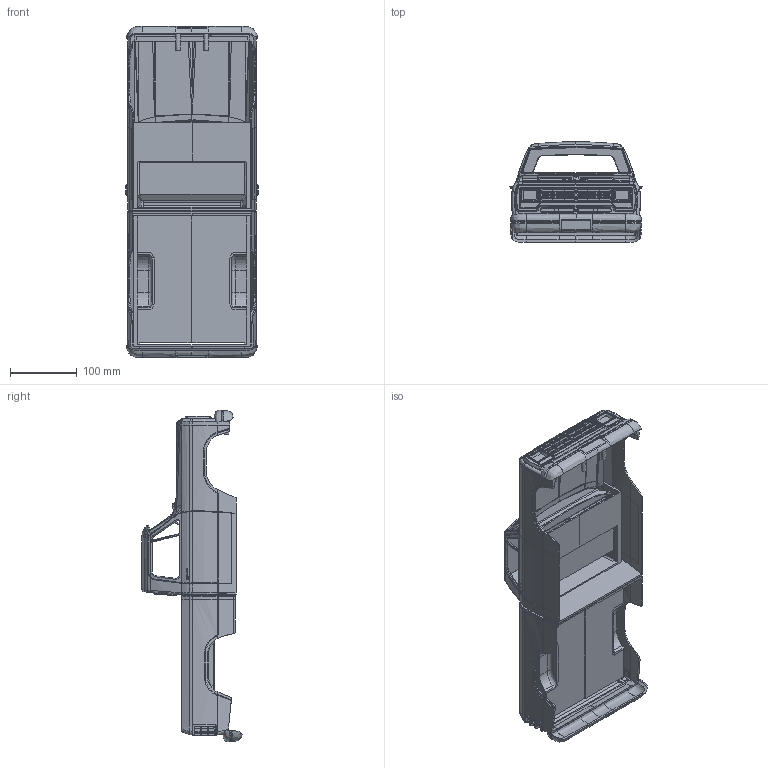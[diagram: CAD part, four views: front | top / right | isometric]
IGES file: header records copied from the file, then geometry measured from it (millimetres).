
Global section: file name: Dodge Ram CUT UP; native system: unknown; preprocessor: unknown; author: alex@bogusky.me; organization: unknown; date: 20190331.211050; units: millimetre
Bounding box: 197.11 x 149.44 x 494.75 mm (x, y, z)
Volume: 811212.3 mm3; surface area: 679036.8 mm2
Topology: 23 solids, 23 shells, 5043 faces, 12763 edges, 7894 vertices
Faces by surface type: bspline 5043
